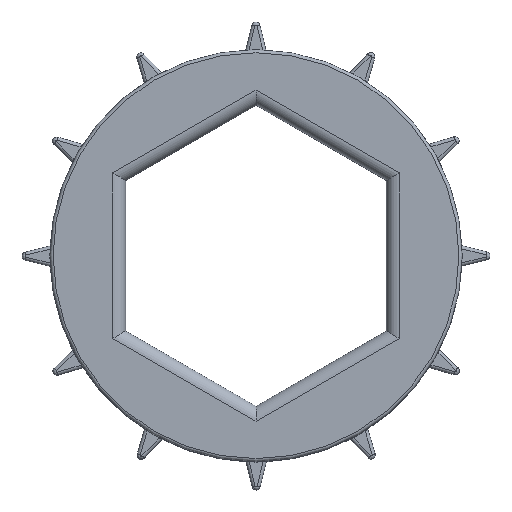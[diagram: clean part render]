
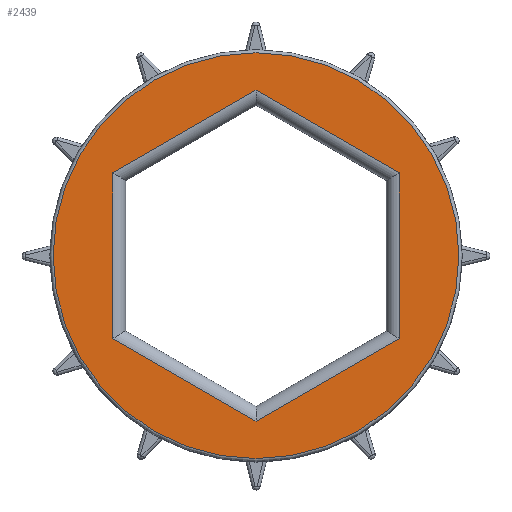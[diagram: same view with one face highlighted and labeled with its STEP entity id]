
A CAD part, top view. The second image highlights one B-rep face of the part: STEP entity #2439.
In plain terms, the highlighted planar face has unit normal (0, 0, 1).
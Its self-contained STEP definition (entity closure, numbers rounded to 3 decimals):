
#173=FACE_BOUND('',#731,.T.);
#175=LINE('',#3693,#351);
#176=LINE('',#3695,#352);
#177=LINE('',#3697,#353);
#178=LINE('',#3699,#354);
#179=LINE('',#3701,#355);
#180=LINE('',#3702,#356);
#351=VECTOR('',#2927,10.);
#352=VECTOR('',#2928,10.);
#353=VECTOR('',#2929,10.);
#354=VECTOR('',#2930,10.);
#355=VECTOR('',#2931,10.);
#356=VECTOR('',#2932,10.);
#527=PLANE('',#2622);
#572=FACE_OUTER_BOUND('',#730,.T.);
#730=EDGE_LOOP('',(#1658,#1659));
#731=EDGE_LOOP('',(#1660,#1661,#1662,#1663,#1664,#1665));
#889=CIRCLE('',#2617,7.83);
#893=CIRCLE('',#2621,7.83);
#1038=VERTEX_POINT('',#3681);
#1039=VERTEX_POINT('',#3682);
#1042=VERTEX_POINT('',#3691);
#1043=VERTEX_POINT('',#3692);
#1044=VERTEX_POINT('',#3694);
#1045=VERTEX_POINT('',#3696);
#1046=VERTEX_POINT('',#3698);
#1047=VERTEX_POINT('',#3700);
#1267=EDGE_CURVE('',#1038,#1039,#889,.T.);
#1271=EDGE_CURVE('',#1039,#1038,#893,.T.);
#1272=EDGE_CURVE('',#1042,#1043,#175,.T.);
#1273=EDGE_CURVE('',#1044,#1042,#176,.T.);
#1274=EDGE_CURVE('',#1045,#1044,#177,.T.);
#1275=EDGE_CURVE('',#1046,#1045,#178,.T.);
#1276=EDGE_CURVE('',#1047,#1046,#179,.T.);
#1277=EDGE_CURVE('',#1043,#1047,#180,.T.);
#1658=ORIENTED_EDGE('',*,*,#1267,.F.);
#1659=ORIENTED_EDGE('',*,*,#1271,.F.);
#1660=ORIENTED_EDGE('',*,*,#1272,.F.);
#1661=ORIENTED_EDGE('',*,*,#1273,.F.);
#1662=ORIENTED_EDGE('',*,*,#1274,.F.);
#1663=ORIENTED_EDGE('',*,*,#1275,.F.);
#1664=ORIENTED_EDGE('',*,*,#1276,.F.);
#1665=ORIENTED_EDGE('',*,*,#1277,.F.);
#2439=ADVANCED_FACE('',(#572,#173),#527,.T.);
#2617=AXIS2_PLACEMENT_3D('',#3683,#2915,#2916);
#2621=AXIS2_PLACEMENT_3D('',#3689,#2923,#2924);
#2622=AXIS2_PLACEMENT_3D('',#3690,#2925,#2926);
#2915=DIRECTION('center_axis',(0.,0.,-1.));
#2916=DIRECTION('ref_axis',(-1.,0.,0.));
#2923=DIRECTION('center_axis',(0.,0.,-1.));
#2924=DIRECTION('ref_axis',(-1.,0.,0.));
#2925=DIRECTION('center_axis',(0.,0.,1.));
#2926=DIRECTION('ref_axis',(1.,0.,0.));
#2927=DIRECTION('',(-0.866,-0.5,0.));
#2928=DIRECTION('',(-0.866,0.5,0.));
#2929=DIRECTION('',(0.,1.,0.));
#2930=DIRECTION('',(0.866,0.5,0.));
#2931=DIRECTION('',(0.866,-0.5,0.));
#2932=DIRECTION('',(0.,-1.,0.));
#3681=CARTESIAN_POINT('',(3.862,0.,3.681));
#3682=CARTESIAN_POINT('',(-11.798,0.,3.681));
#3683=CARTESIAN_POINT('Origin',(-3.968,0.,3.681));
#3689=CARTESIAN_POINT('Origin',(-3.968,0.,3.681));
#3690=CARTESIAN_POINT('Origin',(-3.968,0.,3.681));
#3691=CARTESIAN_POINT('',(-3.968,6.385,3.681));
#3692=CARTESIAN_POINT('',(-9.498,3.193,3.681));
#3693=CARTESIAN_POINT('',(-7.99,4.063,3.681));
#3694=CARTESIAN_POINT('',(1.562,3.193,3.681));
#3695=CARTESIAN_POINT('',(-2.46,5.515,3.681));
#3696=CARTESIAN_POINT('',(1.562,-3.193,3.681));
#3697=CARTESIAN_POINT('',(1.562,1.452,3.681));
#3698=CARTESIAN_POINT('',(-3.968,-6.385,3.681));
#3699=CARTESIAN_POINT('',(0.055,-4.063,3.681));
#3700=CARTESIAN_POINT('',(-9.498,-3.193,3.681));
#3701=CARTESIAN_POINT('',(-5.475,-5.515,3.681));
#3702=CARTESIAN_POINT('',(-9.498,-1.452,3.681));
